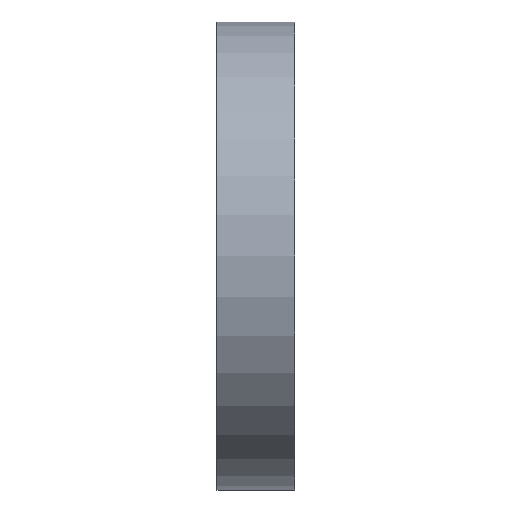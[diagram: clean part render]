
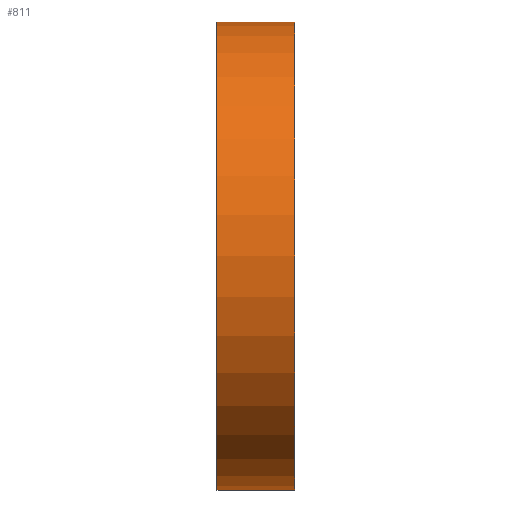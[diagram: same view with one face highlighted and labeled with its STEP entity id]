
A CAD part, left-side view. The second image highlights one B-rep face of the part: STEP entity #811.
In plain terms, the highlighted cylindrical face has radius 18 mm (diameter 36 mm), a partial arc.
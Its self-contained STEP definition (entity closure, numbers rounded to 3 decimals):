
#38 = VECTOR ( 'NONE', #261, 1000. ) ;
#77 = EDGE_CURVE ( 'NONE', #91, #1066, #524, .T. ) ;
#91 = VERTEX_POINT ( 'NONE', #361 ) ;
#121 = EDGE_CURVE ( 'NONE', #384, #1066, #753, .T. ) ;
#162 = ORIENTED_EDGE ( 'NONE', *, *, #121, .T. ) ;
#163 = DIRECTION ( 'NONE',  ( 0., -1., 0. ) ) ;
#228 = CARTESIAN_POINT ( 'NONE',  ( 0., 0., -18. ) ) ;
#261 = DIRECTION ( 'NONE',  ( 0., -1., 0. ) ) ;
#303 = VERTEX_POINT ( 'NONE', #756 ) ;
#310 = DIRECTION ( 'NONE',  ( 0., 1., 0. ) ) ;
#330 = AXIS2_PLACEMENT_3D ( 'NONE', #1005, #310, #424 ) ;
#341 = LINE ( 'NONE', #819, #38 ) ;
#355 = ORIENTED_EDGE ( 'NONE', *, *, #664, .T. ) ;
#361 = CARTESIAN_POINT ( 'NONE',  ( 0., 6., 18. ) ) ;
#384 = VERTEX_POINT ( 'NONE', #228 ) ;
#405 = CARTESIAN_POINT ( 'NONE',  ( 0., 0., 0. ) ) ;
#424 = DIRECTION ( 'NONE',  ( 0., 0., 1. ) ) ;
#520 = CYLINDRICAL_SURFACE ( 'NONE', #1257, 18. ) ;
#524 = LINE ( 'NONE', #1405, #1134 ) ;
#570 = ORIENTED_EDGE ( 'NONE', *, *, #910, .F. ) ;
#664 = EDGE_CURVE ( 'NONE', #303, #384, #341, .T. ) ;
#737 = DIRECTION ( 'NONE',  ( 0., 0., 1. ) ) ;
#753 = CIRCLE ( 'NONE', #1371, 18. ) ;
#756 = CARTESIAN_POINT ( 'NONE',  ( 0., 6., -18. ) ) ;
#793 = CARTESIAN_POINT ( 'NONE',  ( 0., 0., 18. ) ) ;
#811 = ADVANCED_FACE ( 'NONE', ( #1417 ), #520, .T. ) ;
#819 = CARTESIAN_POINT ( 'NONE',  ( 0., 6., -18. ) ) ;
#889 = CIRCLE ( 'NONE', #330, 18. ) ;
#910 = EDGE_CURVE ( 'NONE', #303, #91, #889, .T. ) ;
#956 = DIRECTION ( 'NONE',  ( 0., 1., 0. ) ) ;
#967 = DIRECTION ( 'NONE',  ( 0., -1., 0. ) ) ;
#1005 = CARTESIAN_POINT ( 'NONE',  ( 0., 6., 0. ) ) ;
#1017 = EDGE_LOOP ( 'NONE', ( #1353, #570, #355, #162 ) ) ;
#1066 = VERTEX_POINT ( 'NONE', #793 ) ;
#1089 = CARTESIAN_POINT ( 'NONE',  ( 0., 6., 0. ) ) ;
#1134 = VECTOR ( 'NONE', #163, 1000. ) ;
#1257 = AXIS2_PLACEMENT_3D ( 'NONE', #1089, #967, #1319 ) ;
#1319 = DIRECTION ( 'NONE',  ( 0., 0., -1. ) ) ;
#1353 = ORIENTED_EDGE ( 'NONE', *, *, #77, .F. ) ;
#1371 = AXIS2_PLACEMENT_3D ( 'NONE', #405, #956, #737 ) ;
#1405 = CARTESIAN_POINT ( 'NONE',  ( 0., 6., 18. ) ) ;
#1417 = FACE_OUTER_BOUND ( 'NONE', #1017, .T. ) ;
